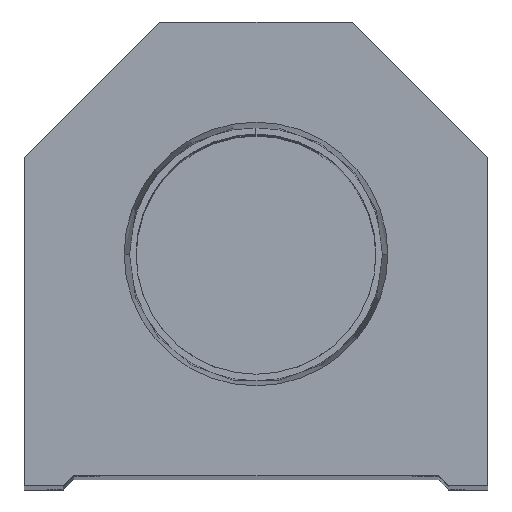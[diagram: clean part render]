
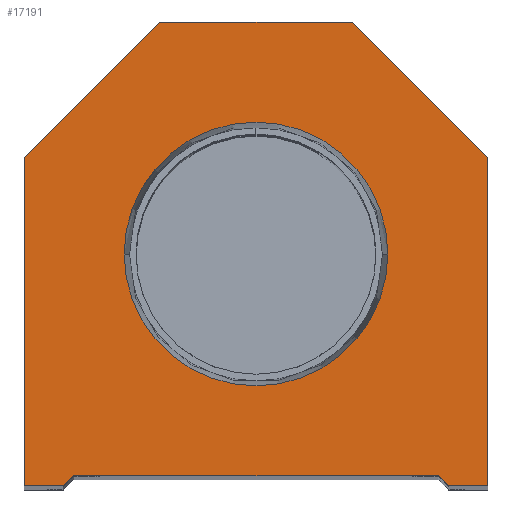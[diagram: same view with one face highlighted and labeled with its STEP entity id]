
A CAD part, top view. The second image highlights one B-rep face of the part: STEP entity #17191.
In plain terms, the highlighted planar face has unit normal (0, 0, 1).
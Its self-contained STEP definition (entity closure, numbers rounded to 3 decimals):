
#368 = CARTESIAN_POINT ( 'NONE',  ( -17.5, 1., 0. ) ) ;
#386 = VERTEX_POINT ( 'NONE', #8130 ) ;
#432 = CARTESIAN_POINT ( 'NONE',  ( 18.5, 0., 0. ) ) ;
#469 = LINE ( 'NONE', #8136, #13757 ) ;
#541 = VECTOR ( 'NONE', #14721, 1000. ) ;
#764 = LINE ( 'NONE', #10114, #541 ) ;
#1002 = CARTESIAN_POINT ( 'NONE',  ( 22.25, 31.5, 0. ) ) ;
#1109 = LINE ( 'NONE', #9900, #4366 ) ;
#1249 = ORIENTED_EDGE ( 'NONE', *, *, #4256, .T. ) ;
#1586 = ORIENTED_EDGE ( 'NONE', *, *, #15821, .T. ) ;
#1688 = VERTEX_POINT ( 'NONE', #2261 ) ;
#1999 = FACE_BOUND ( 'NONE', #12205, .T. ) ;
#2124 = VECTOR ( 'NONE', #11684, 1000. ) ;
#2126 = ORIENTED_EDGE ( 'NONE', *, *, #17138, .T. ) ;
#2137 = EDGE_CURVE ( 'NONE', #5890, #386, #7507, .T. ) ;
#2249 = CARTESIAN_POINT ( 'NONE',  ( -22.25, 31.5, 0. ) ) ;
#2261 = CARTESIAN_POINT ( 'NONE',  ( 9.25, 44.5, 0. ) ) ;
#2305 = EDGE_CURVE ( 'NONE', #14747, #9184, #764, .T. ) ;
#2668 = VERTEX_POINT ( 'NONE', #2249 ) ;
#2724 = ORIENTED_EDGE ( 'NONE', *, *, #18177, .T. ) ;
#3275 = DIRECTION ( 'NONE',  ( 1., 0., 0. ) ) ;
#3483 = ORIENTED_EDGE ( 'NONE', *, *, #5321, .T. ) ;
#3663 = AXIS2_PLACEMENT_3D ( 'NONE', #7373, #8961, #14676 ) ;
#3880 = DIRECTION ( 'NONE',  ( 0., -1., 0. ) ) ;
#4140 = CARTESIAN_POINT ( 'NONE',  ( -9.25, 44.5, 0. ) ) ;
#4150 = LINE ( 'NONE', #1002, #2124 ) ;
#4211 = DIRECTION ( 'NONE',  ( 0., 0., 1. ) ) ;
#4256 = EDGE_CURVE ( 'NONE', #5327, #14747, #15697, .T. ) ;
#4308 = CARTESIAN_POINT ( 'NONE',  ( 0., 22.25, 0. ) ) ;
#4366 = VECTOR ( 'NONE', #3880, 1000. ) ;
#4785 = CARTESIAN_POINT ( 'NONE',  ( 0., 0., 0. ) ) ;
#4790 = DIRECTION ( 'NONE',  ( -0.707, -0.707, 0. ) ) ;
#5087 = FACE_OUTER_BOUND ( 'NONE', #16720, .T. ) ;
#5321 = EDGE_CURVE ( 'NONE', #18578, #13142, #9648, .T. ) ;
#5327 = VERTEX_POINT ( 'NONE', #6645 ) ;
#5568 = EDGE_CURVE ( 'NONE', #1688, #7051, #469, .T. ) ;
#5890 = VERTEX_POINT ( 'NONE', #15810 ) ;
#6394 = CARTESIAN_POINT ( 'NONE',  ( -9.25, 9.25, 0. ) ) ;
#6645 = CARTESIAN_POINT ( 'NONE',  ( -18.5, 0., 0. ) ) ;
#6755 = VERTEX_POINT ( 'NONE', #6804 ) ;
#6791 = LINE ( 'NONE', #18514, #13711 ) ;
#6804 = CARTESIAN_POINT ( 'NONE',  ( 22.25, 31.5, 0. ) ) ;
#7017 = LINE ( 'NONE', #13106, #9037 ) ;
#7051 = VERTEX_POINT ( 'NONE', #4140 ) ;
#7373 = CARTESIAN_POINT ( 'NONE',  ( 0., 22.25, 0. ) ) ;
#7507 = CIRCLE ( 'NONE', #12636, 12.647 ) ;
#7655 = ORIENTED_EDGE ( 'NONE', *, *, #2137, .F. ) ;
#8130 = CARTESIAN_POINT ( 'NONE',  ( -12.647, 22.25, 0. ) ) ;
#8136 = CARTESIAN_POINT ( 'NONE',  ( 9.25, 44.5, 0. ) ) ;
#8606 = CARTESIAN_POINT ( 'NONE',  ( -17.5, 0., 0. ) ) ;
#8961 = DIRECTION ( 'NONE',  ( 0., 0., 1. ) ) ;
#9019 = EDGE_CURVE ( 'NONE', #9184, #18578, #7017, .T. ) ;
#9037 = VECTOR ( 'NONE', #10208, 1000. ) ;
#9184 = VERTEX_POINT ( 'NONE', #18617 ) ;
#9648 = LINE ( 'NONE', #11047, #11178 ) ;
#9734 = ORIENTED_EDGE ( 'NONE', *, *, #14118, .F. ) ;
#9781 = VECTOR ( 'NONE', #17162, 1000. ) ;
#9900 = CARTESIAN_POINT ( 'NONE',  ( -22.25, 0., 0. ) ) ;
#10114 = CARTESIAN_POINT ( 'NONE',  ( -17.5, 1., 0. ) ) ;
#10208 = DIRECTION ( 'NONE',  ( 0.707, -0.707, 0. ) ) ;
#10329 = DIRECTION ( 'NONE',  ( 1., 0., 0. ) ) ;
#10892 = DIRECTION ( 'NONE',  ( 0.707, 0.707, 0. ) ) ;
#11047 = CARTESIAN_POINT ( 'NONE',  ( 17.5, 0., 0. ) ) ;
#11178 = VECTOR ( 'NONE', #12939, 1000. ) ;
#11684 = DIRECTION ( 'NONE',  ( -0.707, 0.707, 0. ) ) ;
#12205 = EDGE_LOOP ( 'NONE', ( #7655, #9734 ) ) ;
#12636 = AXIS2_PLACEMENT_3D ( 'NONE', #4308, #4211, #10329 ) ;
#12939 = DIRECTION ( 'NONE',  ( 1., 0., 0. ) ) ;
#13053 = LINE ( 'NONE', #15878, #9781 ) ;
#13106 = CARTESIAN_POINT ( 'NONE',  ( 9.25, 9.25, 0. ) ) ;
#13142 = VERTEX_POINT ( 'NONE', #17014 ) ;
#13371 = ORIENTED_EDGE ( 'NONE', *, *, #15904, .T. ) ;
#13711 = VECTOR ( 'NONE', #4790, 1000. ) ;
#13757 = VECTOR ( 'NONE', #18833, 1000. ) ;
#14113 = DIRECTION ( 'NONE',  ( 0., 0., 1. ) ) ;
#14118 = EDGE_CURVE ( 'NONE', #386, #5890, #17718, .T. ) ;
#14369 = ORIENTED_EDGE ( 'NONE', *, *, #16453, .T. ) ;
#14676 = DIRECTION ( 'NONE',  ( 1., 0., 0. ) ) ;
#14721 = DIRECTION ( 'NONE',  ( 1., 0., 0. ) ) ;
#14747 = VERTEX_POINT ( 'NONE', #368 ) ;
#15210 = VERTEX_POINT ( 'NONE', #16657 ) ;
#15697 = LINE ( 'NONE', #6394, #19750 ) ;
#15810 = CARTESIAN_POINT ( 'NONE',  ( 12.647, 22.25, 0. ) ) ;
#15821 = EDGE_CURVE ( 'NONE', #6755, #1688, #4150, .T. ) ;
#15878 = CARTESIAN_POINT ( 'NONE',  ( 22.25, 0., 0. ) ) ;
#15904 = EDGE_CURVE ( 'NONE', #13142, #6755, #13053, .T. ) ;
#15987 = ORIENTED_EDGE ( 'NONE', *, *, #5568, .T. ) ;
#16453 = EDGE_CURVE ( 'NONE', #2668, #15210, #1109, .T. ) ;
#16657 = CARTESIAN_POINT ( 'NONE',  ( -22.25, 0., 0. ) ) ;
#16720 = EDGE_LOOP ( 'NONE', ( #2126, #1249, #17582, #18427, #3483, #13371, #1586, #15987, #2724, #14369 ) ) ;
#17014 = CARTESIAN_POINT ( 'NONE',  ( 22.25, 0., 0. ) ) ;
#17138 = EDGE_CURVE ( 'NONE', #15210, #5327, #17506, .T. ) ;
#17162 = DIRECTION ( 'NONE',  ( 0., 1., 0. ) ) ;
#17191 = ADVANCED_FACE ( 'NONE', ( #1999, #5087 ), #18510, .T. ) ;
#17506 = LINE ( 'NONE', #8606, #18467 ) ;
#17582 = ORIENTED_EDGE ( 'NONE', *, *, #2305, .T. ) ;
#17606 = DIRECTION ( 'NONE',  ( 1., 0., 0. ) ) ;
#17718 = CIRCLE ( 'NONE', #3663, 12.647 ) ;
#17816 = AXIS2_PLACEMENT_3D ( 'NONE', #4785, #14113, #3275 ) ;
#18177 = EDGE_CURVE ( 'NONE', #7051, #2668, #6791, .T. ) ;
#18427 = ORIENTED_EDGE ( 'NONE', *, *, #9019, .T. ) ;
#18467 = VECTOR ( 'NONE', #17606, 1000. ) ;
#18510 = PLANE ( 'NONE',  #17816 ) ;
#18514 = CARTESIAN_POINT ( 'NONE',  ( -22.25, 31.5, 0. ) ) ;
#18578 = VERTEX_POINT ( 'NONE', #432 ) ;
#18617 = CARTESIAN_POINT ( 'NONE',  ( 17.5, 1., 0. ) ) ;
#18833 = DIRECTION ( 'NONE',  ( -1., 0., 0. ) ) ;
#19750 = VECTOR ( 'NONE', #10892, 1000. ) ;
